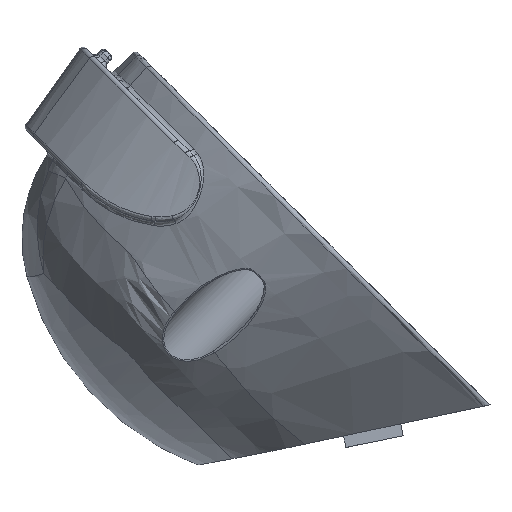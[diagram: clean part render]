
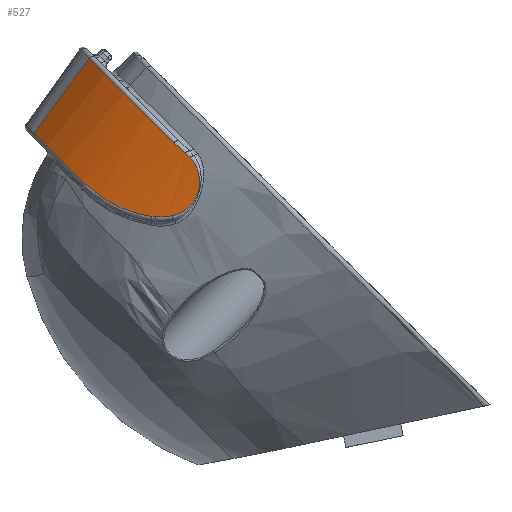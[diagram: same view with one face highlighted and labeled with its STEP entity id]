
A CAD part, left-side view. The second image highlights one B-rep face of the part: STEP entity #527.
In plain terms, the highlighted conical face has half-angle 9.462 degrees and reference radius 33.83 mm.
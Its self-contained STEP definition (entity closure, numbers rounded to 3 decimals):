
#298=CONICAL_SURFACE('',#3691,33.83,9.462);
#368=CIRCLE('',#3689,31.941);
#369=CIRCLE('',#3690,33.774);
#527=ADVANCED_FACE('',(#764),#298,.T.);
#764=FACE_OUTER_BOUND('',#980,.T.);
#980=EDGE_LOOP('',(#1712,#1713,#1714,#1715,#1716,#1717,#1718,#1719,#1720));
#1185=LINE('',#7970,#1275);
#1275=VECTOR('',#4086,1.);
#1712=ORIENTED_EDGE('',*,*,#3019,.F.);
#1713=ORIENTED_EDGE('',*,*,#3020,.T.);
#1714=ORIENTED_EDGE('',*,*,#3021,.T.);
#1715=ORIENTED_EDGE('',*,*,#3022,.T.);
#1716=ORIENTED_EDGE('',*,*,#3023,.T.);
#1717=ORIENTED_EDGE('',*,*,#3024,.T.);
#1718=ORIENTED_EDGE('',*,*,#3025,.T.);
#1719=ORIENTED_EDGE('',*,*,#3026,.T.);
#1720=ORIENTED_EDGE('',*,*,#3027,.T.);
#2633=VERTEX_POINT('',#7971);
#2634=VERTEX_POINT('',#7972);
#2635=VERTEX_POINT('',#7974);
#2636=VERTEX_POINT('',#7981);
#2637=VERTEX_POINT('',#7986);
#2638=VERTEX_POINT('',#7991);
#2639=VERTEX_POINT('',#8014);
#2640=VERTEX_POINT('',#8019);
#2641=VERTEX_POINT('',#8024);
#3019=EDGE_CURVE('',#2633,#2634,#1185,.T.);
#3020=EDGE_CURVE('',#2633,#2635,#368,.T.);
#3021=EDGE_CURVE('',#2635,#2636,#3466,.T.);
#3022=EDGE_CURVE('',#2636,#2637,#3467,.T.);
#3023=EDGE_CURVE('',#2637,#2638,#3468,.T.);
#3024=EDGE_CURVE('',#2638,#2639,#3469,.T.);
#3025=EDGE_CURVE('',#2639,#2640,#3470,.T.);
#3026=EDGE_CURVE('',#2640,#2641,#3471,.T.);
#3027=EDGE_CURVE('',#2641,#2634,#369,.T.);
#3466=B_SPLINE_CURVE_WITH_KNOTS('',3,(#7975,#7976,#7977,#7978,#7979,#7980),
 .UNSPECIFIED.,.F.,.F.,(4,2,4),(0.,0.5,1.),.UNSPECIFIED.);
#3467=B_SPLINE_CURVE_WITH_KNOTS('',3,(#7982,#7983,#7984,#7985),.UNSPECIFIED.,
 .F.,.F.,(4,4),(0.,1.),.UNSPECIFIED.);
#3468=B_SPLINE_CURVE_WITH_KNOTS('',3,(#7987,#7988,#7989,#7990),.UNSPECIFIED.,
 .F.,.F.,(4,4),(0.,1.),.UNSPECIFIED.);
#3469=B_SPLINE_CURVE_WITH_KNOTS('',3,(#7992,#7993,#7994,#7995,#7996,#7997,
#7998,#7999,#8000,#8001,#8002,#8003,#8004,#8005,#8006,#8007,#8008,#8009,
#8010,#8011,#8012,#8013),.UNSPECIFIED.,.F.,.F.,(4,3,3,3,3,3,3,4),(0.,0.098,
0.254,0.395,0.542,0.696,
0.848,1.),.UNSPECIFIED.);
#3470=B_SPLINE_CURVE_WITH_KNOTS('',3,(#8015,#8016,#8017,#8018),.UNSPECIFIED.,
 .F.,.F.,(4,4),(0.,1.),.UNSPECIFIED.);
#3471=B_SPLINE_CURVE_WITH_KNOTS('',3,(#8020,#8021,#8022,#8023),.UNSPECIFIED.,
 .F.,.F.,(4,4),(0.,1.),.UNSPECIFIED.);
#3689=AXIS2_PLACEMENT_3D('',#7973,#4087,#4088);
#3690=AXIS2_PLACEMENT_3D('',#8025,#4089,#4090);
#3691=AXIS2_PLACEMENT_3D('',#8026,#4091,#4092);
#4086=DIRECTION('',(-0.067,-0.591,0.804));
#4087=DIRECTION('',(0.,-0.707,0.707));
#4088=DIRECTION('',(0.,-0.707,-0.707));
#4089=DIRECTION('',(0.,0.707,-0.707));
#4090=DIRECTION('',(0.,0.707,0.707));
#4091=DIRECTION('',(0.,-0.707,0.707));
#4092=DIRECTION('',(0.,-0.707,-0.707));
#7970=CARTESIAN_POINT('',(76.62,129.251,225.75));
#7971=CARTESIAN_POINT('',(76.574,128.853,226.291));
#7972=CARTESIAN_POINT('',(75.823,122.257,235.252));
#7973=CARTESIAN_POINT('',(89.663,108.251,205.689));
#7974=CARTESIAN_POINT('',(65.56,123.071,220.509));
#7975=CARTESIAN_POINT('',(65.56,123.071,220.509));
#7976=CARTESIAN_POINT('',(64.322,122.064,219.502));
#7977=CARTESIAN_POINT('',(63.215,120.878,218.598));
#7978=CARTESIAN_POINT('',(61.221,118.097,217.129));
#7979=CARTESIAN_POINT('',(60.339,116.49,216.568));
#7980=CARTESIAN_POINT('',(59.589,114.77,216.309));
#7981=CARTESIAN_POINT('',(59.589,114.77,216.309));
#7982=CARTESIAN_POINT('',(59.589,114.77,216.309));
#7983=CARTESIAN_POINT('',(59.523,114.619,216.286));
#7984=CARTESIAN_POINT('',(59.458,114.465,216.271));
#7985=CARTESIAN_POINT('',(59.396,114.311,216.264));
#7986=CARTESIAN_POINT('',(59.396,114.311,216.264));
#7987=CARTESIAN_POINT('',(59.396,114.311,216.264));
#7988=CARTESIAN_POINT('',(59.129,113.657,216.232));
#7989=CARTESIAN_POINT('',(58.88,112.987,216.272));
#7990=CARTESIAN_POINT('',(58.656,112.328,216.398));
#7991=CARTESIAN_POINT('',(58.656,112.328,216.398));
#7992=CARTESIAN_POINT('',(58.656,112.328,216.398));
#7993=CARTESIAN_POINT('',(58.561,112.051,216.451));
#7994=CARTESIAN_POINT('',(58.473,111.776,216.54));
#7995=CARTESIAN_POINT('',(58.394,111.514,216.658));
#7996=CARTESIAN_POINT('',(58.268,111.102,216.844));
#7997=CARTESIAN_POINT('',(58.16,110.712,217.105));
#7998=CARTESIAN_POINT('',(58.075,110.375,217.42));
#7999=CARTESIAN_POINT('',(57.998,110.072,217.703));
#8000=CARTESIAN_POINT('',(57.938,109.804,218.037));
#8001=CARTESIAN_POINT('',(57.901,109.594,218.401));
#8002=CARTESIAN_POINT('',(57.862,109.374,218.782));
#8003=CARTESIAN_POINT('',(57.849,109.213,219.208));
#8004=CARTESIAN_POINT('',(57.866,109.129,219.641));
#8005=CARTESIAN_POINT('',(57.884,109.041,220.095));
#8006=CARTESIAN_POINT('',(57.936,109.031,220.57));
#8007=CARTESIAN_POINT('',(58.018,109.093,221.021));
#8008=CARTESIAN_POINT('',(58.099,109.153,221.467));
#8009=CARTESIAN_POINT('',(58.213,109.284,221.904));
#8010=CARTESIAN_POINT('',(58.352,109.473,222.298));
#8011=CARTESIAN_POINT('',(58.491,109.661,222.69));
#8012=CARTESIAN_POINT('',(58.66,109.911,223.05));
#8013=CARTESIAN_POINT('',(58.848,110.204,223.346));
#8014=CARTESIAN_POINT('',(58.848,110.204,223.346));
#8015=CARTESIAN_POINT('',(58.848,110.204,223.346));
#8016=CARTESIAN_POINT('',(58.962,110.383,223.526));
#8017=CARTESIAN_POINT('',(59.081,110.568,223.697));
#8018=CARTESIAN_POINT('',(59.204,110.758,223.859));
#8019=CARTESIAN_POINT('',(59.204,110.758,223.859));
#8020=CARTESIAN_POINT('',(59.204,110.758,223.859));
#8021=CARTESIAN_POINT('',(59.516,111.24,224.267));
#8022=CARTESIAN_POINT('',(59.844,111.698,224.692));
#8023=CARTESIAN_POINT('',(60.188,112.133,225.127));
#8024=CARTESIAN_POINT('',(60.188,112.133,225.127));
#8025=CARTESIAN_POINT('',(89.663,100.472,213.467));
#8026=CARTESIAN_POINT('',(89.663,100.235,213.704));
